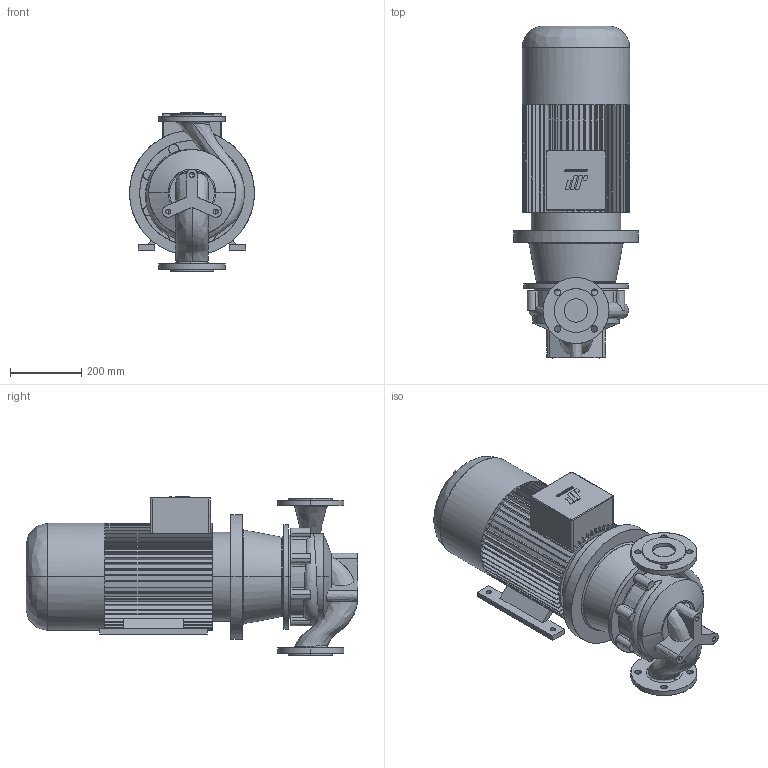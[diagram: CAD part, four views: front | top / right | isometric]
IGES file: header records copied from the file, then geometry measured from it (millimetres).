
Start section: CombiLine
Global section: file name: CLB_65-200_IEC160L_ND10.igs; native system:  By UGS Corp.; preprocessor: XPlus GENERIC/IGES 3.0; author: Stageplaats; organization: Johnson Pump Water B.V.; date: 20070716.134339; units: millimetre
Bounding box: 350 x 929.5 x 445 mm (x, y, z)
Surface area: 1822935.2 mm2 (no closed solid volume)
Topology: 0 solids, 0 shells, 582 faces, 3526 edges, 3520 vertices
Faces by surface type: bspline 582
